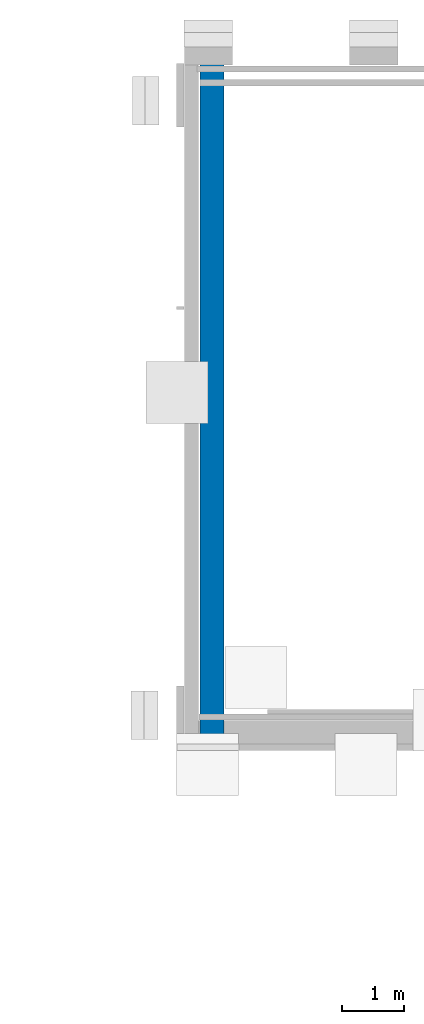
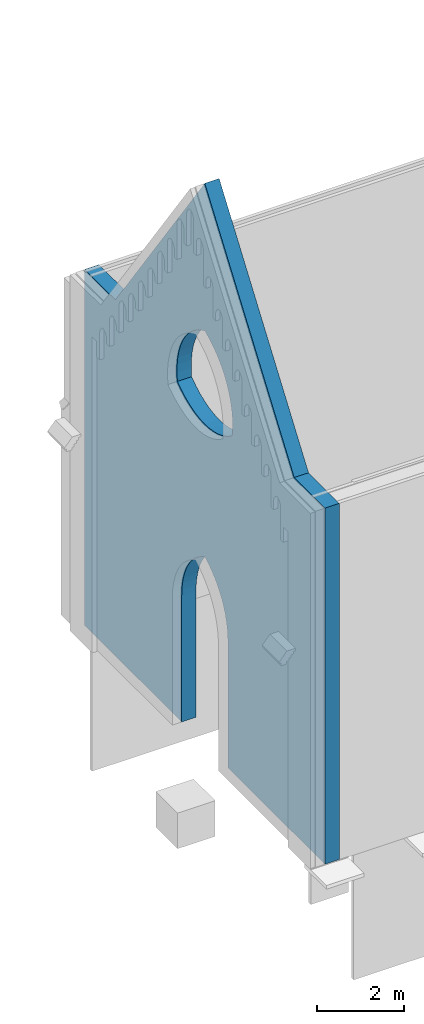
# Not in any storey, part 4 of 5: 1 wall.
"""IFC4 model written with IfcOpenShell, lengths in metres."""

from ifc_helpers import new_model, entity, si_unit, converted_unit, frame, origin_with_axes, origin_2d_with_axis, place, context, subcontext, project, polygons, element, save


model = new_model("IFC4")

# Units and contexts
model_context = context("Model", 3, precision=1e-05, world=origin_with_axes())
plan_context = context("Plan", 2, precision=1e-05, world=origin_2d_with_axis())
body_context = subcontext(model_context, "Body", "Model", "MODEL_VIEW")
ifc_project = project(units=[si_unit("LENGTHUNIT", "METRE"), converted_unit("PLANEANGLEUNIT", "degree", entity("IfcReal", 0.0174532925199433), si_unit("PLANEANGLEUNIT", "RADIAN"), dimensions=[0, 0, 0, 0, 0, 0, 0]), si_unit("AREAUNIT", "SQUARE_METRE"), si_unit("VOLUMEUNIT", "CUBIC_METRE")], contexts=[model_context, plan_context])

# Wall
wall_placement = place(None, frame((0.374967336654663, 0.0, 0.0), z_axis=(0.999999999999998, 4.37113882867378e-08, -4.37113882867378e-08), x_axis=(-4.37113882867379e-08, 0.999999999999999, 0.0)))
element("IfcWall", 1, at=wall_placement, Name="wall_north_core", PredefinedType="SOLIDWALL", context=body_context, shape_type="Tessellation", body=[
    polygons([(5.86372137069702, 15.2689647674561, 0.0), (5.52121591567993, 15.7489767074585, 0.0), (5.17872047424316, 15.2689685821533, 0.0), (4.8362250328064, 14.7889604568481, 0.0), (6.20622873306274, 14.7889556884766, 0.0), (4.49372911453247, 14.3089513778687, 0.0), (6.54873609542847, 14.3089475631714, 0.0), (4.1512336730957, 13.8289432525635, 0.0), (6.89124345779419, 13.8289394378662, 0.0), (3.80873799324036, 13.348934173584, 0.0), (5.52192878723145, 11.6085729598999, 0.0), (9.63130187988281, 9.98887157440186, 0.0), (9.28879451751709, 10.468879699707, 0.0), (6.78094244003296, 9.42789840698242, 0.0), (7.23375082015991, 13.3489303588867, 0.0), (5.7340145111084, 11.5074281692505, 0.0), (5.92956018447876, 11.3865308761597, 0.0), (7.57625770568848, 12.8689222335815, 0.0), (7.9187650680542, 12.3889141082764, 0.0), (6.10768270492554, 11.2474126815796, 0.0), (2.23126721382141, 4.99993553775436e-15, 0.0), (4.46253442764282, 2.05914044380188, 0.0), (2.6031448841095, 4.99993553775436e-15, 0.0), (1.41126894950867, 9.98887157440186, 0.0), (4.26291561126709, 9.42789936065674, 0.0), (0.0, 7.4916524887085, 0.0), (5.30984449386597, 11.5074291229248, 0.0), (5.11429882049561, 11.386531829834, 0.0), (6.26749801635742, 11.0916032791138, 0.0), (11.038857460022, 5.82684135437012, 0.0), (11.038857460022, 6.65924739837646, 0.0), (6.20518398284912, 4.69935846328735, 0.0), (8.94628715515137, 10.9488887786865, 0.0), (8.60377979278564, 11.4288969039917, 0.0), (6.70601797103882, 10.3320646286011, 0.0), (4.24446773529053, 9.66214275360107, 0.0), (4.25139474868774, 9.89193916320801, 0.0), (1.75376451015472, 10.4688835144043, 0.0), (1.05845153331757, 9.98887157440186, 0.0), (0.940845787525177, 9.98887157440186, 0.0), (0.0, 9.15646553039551, 0.0), (3.12374687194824, 12.3889179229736, 0.0), (4.93617677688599, 11.2474136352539, 0.0), (4.7763614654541, 11.0916042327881, 0.0), (3.46624255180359, 12.8689260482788, 0.0), (2.09626007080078, 10.9488925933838, 0.0), (5.07396793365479, 4.96102142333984, 0.0), (5.21100234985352, 5.07662200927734, 0.0), (4.65902519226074, 9.1859016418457, 0.0), (6.17529153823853, 9.10120105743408, 0.0), (5.96044921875, 9.0407018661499, 0.0), (5.52192878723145, 5.27420568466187, 0.0), (4.6357364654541, 10.9206352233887, 0.0), (0.0, 5.82683992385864, 0.0), (0.0, 4.99443387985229, 0.0), (4.65763664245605, 4.40128755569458, 0.0), (6.62826633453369, 10.5393342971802, 0.0), (2.7812511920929, 11.9089088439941, 0.0), (4.51518583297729, 10.7360343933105, 0.0), (8.26127243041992, 11.9089050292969, 0.0), (6.40812253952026, 10.9206342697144, 0.0), (6.52867317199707, 10.7360334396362, 0.0), (0.0, 6.65924644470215, 0.0), (4.45655250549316, 9.2947998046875, 0.0), (4.41559314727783, 10.5393352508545, 0.0), (8.81009006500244, 9.9998698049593e-16, 0.0), (11.038857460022, 1.66481196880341, 0.0), (11.038857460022, 2.49721789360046, 0.0), (2.43875575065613, 11.428900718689, 0.0), (4.33784103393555, 10.3320655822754, 0.0), (6.76104545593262, 10.1157550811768, 0.0), (6.79246425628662, 9.89193820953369, 0.0), (0.0, 4.16202735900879, 0.0), (0.0, 3.32962155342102, 0.0), (4.47059392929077, 3.71611428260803, 0.0), (1.29366314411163, 9.98887157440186, 0.0), (1.1760573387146, 9.98887157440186, 0.0), (0.0, 8.32405853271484, 0.0), (4.28281402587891, 10.1157560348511, 0.0), (4.46253442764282, 2.3533034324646, 0.0), (0.0, 2.49721550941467, 0.0), (11.038857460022, 9.15646553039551, 0.0), (11.038857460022, 9.98887157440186, 0.0), (10.9215612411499, 9.98887157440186, 0.0), (10.8042650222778, 9.98887157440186, 0.0), (10.6869688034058, 9.98887157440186, 0.0), (10.5696725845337, 9.98887157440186, 0.0), (10.4523763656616, 9.98887157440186, 0.0), (10.3350801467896, 9.98887157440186, 0.0), (10.2177839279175, 9.98887157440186, 0.0), (10.1004867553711, 9.98887157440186, 0.0), (9.98319053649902, 9.98887157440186, 0.0), (9.86589431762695, 9.98887157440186, 0.0), (11.038857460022, 8.32405853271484, 0.0), (9.74859809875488, 9.98887157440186, 0.0), (4.46253442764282, 1.76497757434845, 0.0), (2.97502279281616, 4.99993553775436e-15, 0.0), (0.823239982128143, 9.98887157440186, 0.0), (0.705634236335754, 9.98887157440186, 0.0), (0.588028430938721, 9.98887157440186, 0.0), (0.470422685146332, 9.98887157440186, 0.0), (0.352816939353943, 9.98887157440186, 0.0), (0.235211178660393, 9.98887157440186, 0.0), (0.117605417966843, 9.98887157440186, 0.0), (0.0, 9.98887157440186, 0.0), (6.58132362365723, 2.05913972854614, 0.0), (6.58132362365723, 1.76497673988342, 0.0), (8.43862819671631, 1.16665161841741e-15, 0.0), (11.038857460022, 7.49165296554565, 0.0), (6.58730554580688, 9.29479885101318, 0.0), (6.79939126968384, 9.66214179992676, 0.0), (6.0941276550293, 4.83505630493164, 0.0), (5.74207258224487, 9.00440216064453, 0.0), (6.38483285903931, 9.18590068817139, 0.0), (5.83285617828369, 5.07662153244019, 0.0), (11.038857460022, 4.16202974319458, 0.0), (6.54934024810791, 3.89695882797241, 0.0), (6.57326412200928, 3.71611452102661, 0.0), (5.6834077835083, 5.18122673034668, 0.0), (5.08340883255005, 9.04070281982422, 0.0), (4.86856603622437, 9.1012020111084, 0.0), (5.30178546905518, 9.00440406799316, 0.0), (5.52192878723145, 8.99230289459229, 0.0), (5.96989059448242, 4.96102094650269, 0.0), (5.36045074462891, 5.18122720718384, 0.0), (6.58132362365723, 1.47081387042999, 0.0), (8.06716728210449, 1.33331615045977e-15, 0.0), (3.71877837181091, 4.99993553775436e-15, 0.0), (4.46253442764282, 0.588325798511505, 0.0), (4.09065628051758, 4.99993553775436e-15, 0.0), (4.46253442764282, 1.17665159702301, 0.0), (4.46253442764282, 1.47081458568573, 0.0), (4.46253442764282, 2.94162940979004, 0.0), (4.46253442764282, 3.23579239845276, 0.0), (6.3026762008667, 4.55455875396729, 0.0), (6.58132362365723, 2.9416286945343, 0.0), (11.038857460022, 3.32962393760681, 0.0), (4.94973087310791, 4.8350567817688, 0.0), (4.83867454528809, 4.69935894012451, 0.0), (3.34690046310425, 4.99993553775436e-15, 0.0), (4.74118232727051, 4.55455875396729, 0.0), (11.038857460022, 4.99443578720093, 0.0), (6.45543575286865, 4.2401762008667, 0.0), (6.50993680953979, 4.07185649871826, 0.0), (4.58842182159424, 4.2401762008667, 0.0), (4.53392124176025, 4.07185649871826, 0.0), (4.49451732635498, 3.89695858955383, 0.0), (6.58132362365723, 3.52995443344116, 0.0), (4.46253442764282, 3.52995419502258, 0.0), (6.58132362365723, 3.23579168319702, 0.0), (4.46253442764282, 2.64746642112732, 0.0), (6.58132362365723, 2.64746570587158, 0.0), (6.58132362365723, 2.35330271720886, 0.0), (0.0, 1.66480934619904, 0.0), (1.85938942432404, 4.99993553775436e-15, 0.0), (1.48751151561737, 4.99993553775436e-15, 0.0), (6.38622140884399, 4.40128755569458, 0.0), (0.0, 0.832403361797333, 0.0), (1.11563360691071, 4.99993553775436e-15, 0.0), (0.743755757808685, 4.99993553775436e-15, 0.0), (4.46253442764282, 0.88248872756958, 0.0), (6.58132362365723, 1.17665088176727, 0.0), (9.92447280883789, 4.99993331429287e-16, 0.0), (11.038857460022, 0.832405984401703, 0.0), (0.0, 4.99993553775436e-15, 0.0), (0.371877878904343, 4.99993553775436e-15, 0.0), (10.2959337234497, 3.33328825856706e-16, 0.0), (10.6673946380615, 1.66664280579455e-16, 0.0), (7.32424545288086, 1.66664521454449e-15, 0.0), (6.58132362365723, 0.588325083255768, 0.0), (6.95278453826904, 1.83330985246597e-15, 0.0), (6.58132362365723, 0.294162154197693, 0.0), (6.58132362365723, 1.9999741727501e-15, 0.0), (7.69570636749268, 1.49998068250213e-15, 0.0), (6.58132362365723, 0.882487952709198, 0.0), (4.46253442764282, 0.294162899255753, 0.0), (4.46253442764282, 4.99993553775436e-15, 0.0), (9.18155097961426, 8.33322448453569e-16, 0.0), (9.55301189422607, 6.66657916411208e-16, 0.0), (11.038857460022, 0.0, 0.0), (5.86372137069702, 15.2689647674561, 0.379999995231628), (5.17872047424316, 15.2689685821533, 0.379999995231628), (5.52121591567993, 15.7489767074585, 0.379999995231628), (4.8362250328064, 14.7889604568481, 0.379999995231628), (6.20622873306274, 14.7889556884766, 0.379999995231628), (4.49372911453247, 14.3089513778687, 0.379999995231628), (6.54873609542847, 14.3089475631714, 0.379999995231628), (4.1512336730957, 13.8289432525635, 0.379999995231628), (6.89124345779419, 13.8289394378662, 0.379999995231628), (3.80873799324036, 13.348934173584, 0.379999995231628), (5.52192878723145, 11.6085729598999, 0.379999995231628), (9.63130187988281, 9.98887157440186, 0.379999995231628), (6.78094244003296, 9.42789840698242, 0.379999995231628), (9.28879451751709, 10.468879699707, 0.379999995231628), (7.23375082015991, 13.3489303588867, 0.379999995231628), (5.92956018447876, 11.3865308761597, 0.379999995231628), (5.7340145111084, 11.5074281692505, 0.379999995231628), (7.57625770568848, 12.8689222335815, 0.379999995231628), (7.9187650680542, 12.3889141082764, 0.379999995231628), (6.10768270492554, 11.2474126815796, 0.379999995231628), (2.6031448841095, 4.99993553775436e-15, 0.379999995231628), (4.46253442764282, 2.05914044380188, 0.379999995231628), (2.23126721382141, 4.99993553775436e-15, 0.379999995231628), (0.0, 7.4916524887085, 0.379999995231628), (4.26291561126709, 9.42789936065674, 0.379999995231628), (1.41126894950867, 9.98887157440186, 0.379999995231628), (5.11429882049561, 11.386531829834, 0.379999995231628), (5.30984449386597, 11.5074291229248, 0.379999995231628), (6.26749801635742, 11.0916032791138, 0.379999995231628), (11.038857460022, 5.82684135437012, 0.379999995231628), (6.20518398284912, 4.69935846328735, 0.379999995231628), (11.038857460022, 6.65924739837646, 0.379999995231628), (8.94628715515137, 10.9488887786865, 0.379999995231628), (6.70601797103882, 10.3320646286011, 0.379999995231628), (8.60377979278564, 11.4288969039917, 0.379999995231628), (1.75376451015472, 10.4688835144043, 0.379999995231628), (4.24446773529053, 9.66214275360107, 0.379999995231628), (4.25139474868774, 9.89193916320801, 0.379999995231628), (1.05845153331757, 9.98887157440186, 0.379999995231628), (0.0, 9.15646553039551, 0.379999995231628), (0.940845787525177, 9.98887157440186, 0.379999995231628), (4.7763614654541, 11.0916042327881, 0.379999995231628), (4.93617677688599, 11.2474136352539, 0.379999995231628), (3.12374687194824, 12.3889179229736, 0.379999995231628), (3.46624255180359, 12.8689260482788, 0.379999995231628), (2.09626007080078, 10.9488925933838, 0.379999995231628), (5.07396793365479, 4.96102142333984, 0.379999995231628), (4.65902519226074, 9.1859016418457, 0.379999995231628), (5.21100234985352, 5.07662200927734, 0.379999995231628), (5.52192878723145, 5.27420568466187, 0.379999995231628), (6.17529153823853, 9.10120105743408, 0.379999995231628), (5.96044921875, 9.0407018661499, 0.379999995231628), (4.6357364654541, 10.9206352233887, 0.379999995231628), (0.0, 5.82683992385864, 0.379999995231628), (4.65763664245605, 4.40128755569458, 0.379999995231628), (0.0, 4.99443387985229, 0.379999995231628), (6.62826633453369, 10.5393342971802, 0.379999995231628), (4.51518583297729, 10.7360343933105, 0.379999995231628), (2.7812511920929, 11.9089088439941, 0.379999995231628), (8.26127243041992, 11.9089050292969, 0.379999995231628), (6.52867317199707, 10.7360334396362, 0.379999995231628), (6.40812253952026, 10.9206342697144, 0.379999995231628), (0.0, 6.65924644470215, 0.379999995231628), (4.45655250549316, 9.2947998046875, 0.379999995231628), (4.41559314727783, 10.5393352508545, 0.379999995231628), (8.81009006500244, 9.9998698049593e-16, 0.379999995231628), (11.038857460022, 2.49721789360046, 0.379999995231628), (11.038857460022, 1.66481196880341, 0.379999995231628), (4.33784103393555, 10.3320655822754, 0.379999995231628), (2.43875575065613, 11.428900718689, 0.379999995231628), (6.79246425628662, 9.89193820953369, 0.379999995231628), (6.76104545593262, 10.1157550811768, 0.379999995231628), (0.0, 4.16202735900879, 0.379999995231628), (4.47059392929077, 3.71611428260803, 0.379999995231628), (0.0, 3.32962155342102, 0.379999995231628), (1.29366314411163, 9.98887157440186, 0.379999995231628), (0.0, 8.32405853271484, 0.379999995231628), (1.1760573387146, 9.98887157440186, 0.379999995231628), (4.28281402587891, 10.1157560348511, 0.379999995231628), (0.0, 2.49721550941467, 0.379999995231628), (4.46253442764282, 2.3533034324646, 0.379999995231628), (11.038857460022, 9.15646553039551, 0.379999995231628), (10.9215612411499, 9.98887157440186, 0.379999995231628), (11.038857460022, 9.98887157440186, 0.379999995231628), (10.8042650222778, 9.98887157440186, 0.379999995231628), (10.6869688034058, 9.98887157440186, 0.379999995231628), (10.5696725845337, 9.98887157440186, 0.379999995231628), (10.4523763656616, 9.98887157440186, 0.379999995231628), (10.3350801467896, 9.98887157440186, 0.379999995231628), (10.2177839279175, 9.98887157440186, 0.379999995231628), (10.1004867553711, 9.98887157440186, 0.379999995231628), (9.98319053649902, 9.98887157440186, 0.379999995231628), (9.86589431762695, 9.98887157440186, 0.379999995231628), (9.74859809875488, 9.98887157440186, 0.379999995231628), (11.038857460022, 8.32405853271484, 0.379999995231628), (2.97502279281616, 4.99993553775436e-15, 0.379999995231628), (4.46253442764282, 1.76497757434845, 0.379999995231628), (0.823239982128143, 9.98887157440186, 0.379999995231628), (0.705634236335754, 9.98887157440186, 0.379999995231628), (0.588028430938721, 9.98887157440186, 0.379999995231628), (0.470422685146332, 9.98887157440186, 0.379999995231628), (0.352816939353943, 9.98887157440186, 0.379999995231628), (0.235211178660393, 9.98887157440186, 0.379999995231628), (0.117605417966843, 9.98887157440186, 0.379999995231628), (0.0, 9.98887157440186, 0.379999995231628), (8.43862819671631, 1.16665161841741e-15, 0.379999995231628), (6.58132362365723, 2.05913972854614, 0.379999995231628), (6.58132362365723, 1.76497673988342, 0.379999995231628), (11.038857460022, 7.49165296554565, 0.379999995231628), (6.58730554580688, 9.29479885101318, 0.379999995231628), (6.79939126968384, 9.66214179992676, 0.379999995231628), (6.0941276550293, 4.83505630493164, 0.379999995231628), (5.74207258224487, 9.00440216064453, 0.379999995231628), (5.83285617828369, 5.07662153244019, 0.379999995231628), (6.38483285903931, 9.18590068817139, 0.379999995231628), (11.038857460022, 4.16202974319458, 0.379999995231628), (6.57326412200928, 3.71611452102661, 0.379999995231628), (6.54934024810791, 3.89695882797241, 0.379999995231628), (5.6834077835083, 5.18122673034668, 0.379999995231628), (5.08340883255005, 9.04070281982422, 0.379999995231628), (4.86856603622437, 9.1012020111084, 0.379999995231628), (5.30178546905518, 9.00440406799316, 0.379999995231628), (5.52192878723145, 8.99230289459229, 0.379999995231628), (5.96989059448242, 4.96102094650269, 0.379999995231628), (5.36045074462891, 5.18122720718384, 0.379999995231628), (8.06716728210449, 1.33331615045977e-15, 0.379999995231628), (6.58132362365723, 1.47081387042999, 0.379999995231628), (4.09065628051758, 4.99993553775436e-15, 0.379999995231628), (4.46253442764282, 0.588325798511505, 0.379999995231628), (3.71877837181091, 4.99993553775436e-15, 0.379999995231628), (4.46253442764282, 1.17665159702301, 0.379999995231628), (4.46253442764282, 1.47081458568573, 0.379999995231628), (4.46253442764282, 2.94162940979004, 0.379999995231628), (4.46253442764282, 3.23579239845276, 0.379999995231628), (6.3026762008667, 4.55455875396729, 0.379999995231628), (11.038857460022, 3.32962393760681, 0.379999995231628), (6.58132362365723, 2.9416286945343, 0.379999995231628), (4.83867454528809, 4.69935894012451, 0.379999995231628), (4.94973087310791, 4.8350567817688, 0.379999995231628), (3.34690046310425, 4.99993553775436e-15, 0.379999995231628), (4.74118232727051, 4.55455875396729, 0.379999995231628), (11.038857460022, 4.99443578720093, 0.379999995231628), (6.50993680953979, 4.07185649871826, 0.379999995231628), (6.45543575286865, 4.2401762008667, 0.379999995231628), (4.58842182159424, 4.2401762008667, 0.379999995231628), (4.53392124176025, 4.07185649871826, 0.379999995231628), (4.49451732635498, 3.89695858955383, 0.379999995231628), (6.58132362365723, 3.52995443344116, 0.379999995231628), (4.46253442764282, 3.52995419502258, 0.379999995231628), (6.58132362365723, 3.23579168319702, 0.379999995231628), (4.46253442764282, 2.64746642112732, 0.379999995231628), (6.58132362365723, 2.64746570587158, 0.379999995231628), (6.58132362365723, 2.35330271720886, 0.379999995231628), (0.0, 1.66480934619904, 0.379999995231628), (1.85938942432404, 4.99993553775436e-15, 0.379999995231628), (1.48751151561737, 4.99993553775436e-15, 0.379999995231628), (6.38622140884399, 4.40128755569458, 0.379999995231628), (0.0, 0.832403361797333, 0.379999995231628), (1.11563360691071, 4.99993553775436e-15, 0.379999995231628), (0.743755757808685, 4.99993553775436e-15, 0.379999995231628), (4.46253442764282, 0.88248872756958, 0.379999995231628), (6.58132362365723, 1.17665088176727, 0.379999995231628), (9.92447280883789, 4.99993331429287e-16, 0.379999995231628), (11.038857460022, 0.832405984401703, 0.379999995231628), (0.0, 4.99993553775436e-15, 0.379999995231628), (0.371877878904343, 4.99993553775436e-15, 0.379999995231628), (10.2959337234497, 3.33328825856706e-16, 0.379999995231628), (10.6673946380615, 1.66664280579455e-16, 0.379999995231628), (6.95278453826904, 1.83330985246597e-15, 0.379999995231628), (7.32424545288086, 1.66664521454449e-15, 0.379999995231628), (6.58132362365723, 0.588325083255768, 0.379999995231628), (6.58132362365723, 1.9999741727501e-15, 0.379999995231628), (6.58132362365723, 0.294162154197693, 0.379999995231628), (7.69570636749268, 1.49998068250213e-15, 0.379999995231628), (6.58132362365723, 0.882487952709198, 0.379999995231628), (4.46253442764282, 0.294162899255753, 0.379999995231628), (4.46253442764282, 4.99993553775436e-15, 0.379999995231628), (9.18155097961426, 8.33322448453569e-16, 0.379999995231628), (9.55301189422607, 6.66657916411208e-16, 0.379999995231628), (11.038857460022, 0.0, 0.379999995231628)], [[[2, 1, 3]], [[3, 1, 4]], [[4, 1, 5]], [[4, 5, 6]], [[6, 5, 7]], [[6, 7, 8]], [[8, 7, 9]], [[8, 11, 10]], [[14, 13, 12]], [[15, 17, 16]], [[9, 15, 11]], [[15, 18, 17]], [[15, 16, 11]], [[18, 19, 20]], [[21, 22, 23]], [[24, 25, 26]], [[10, 27, 28]], [[20, 19, 29]], [[32, 31, 30]], [[35, 34, 33]], [[38, 37, 36]], [[38, 36, 25]], [[41, 40, 39]], [[42, 43, 44]], [[45, 28, 43]], [[46, 37, 38]], [[49, 48, 47]], [[51, 50, 52]], [[42, 44, 53]], [[54, 56, 55]], [[57, 34, 35]], [[58, 53, 59]], [[61, 60, 62]], [[63, 25, 64]], [[58, 59, 65]], [[68, 67, 66]], [[69, 65, 70]], [[71, 33, 72]], [[73, 75, 74]], [[77, 76, 78]], [[61, 19, 60]], [[46, 70, 79]], [[46, 79, 37]], [[81, 80, 21]], [[84, 83, 82]], [[85, 84, 82]], [[86, 85, 82]], [[87, 86, 82]], [[88, 87, 82]], [[89, 88, 82]], [[90, 89, 82]], [[91, 90, 82]], [[92, 91, 82]], [[93, 92, 82]], [[95, 93, 94]], [[12, 95, 94]], [[23, 96, 97]], [[76, 24, 78]], [[24, 26, 78]], [[41, 77, 78]], [[98, 40, 41]], [[99, 98, 41]], [[100, 99, 41]], [[101, 100, 41]], [[102, 101, 41]], [[103, 102, 41]], [[104, 103, 41]], [[105, 104, 41]], [[38, 25, 24]], [[42, 53, 58]], [[106, 108, 107]], [[41, 39, 77]], [[14, 12, 109]], [[64, 49, 47]], [[110, 14, 31]], [[111, 13, 14]], [[112, 31, 32]], [[113, 51, 52]], [[50, 114, 115]], [[12, 94, 109]], [[117, 116, 118]], [[50, 115, 119]], [[50, 119, 52]], [[72, 33, 13]], [[17, 18, 20]], [[121, 120, 52]], [[57, 60, 34]], [[45, 43, 42]], [[120, 122, 52]], [[122, 123, 52]], [[8, 9, 11]], [[49, 121, 48]], [[114, 110, 124]], [[121, 125, 48]], [[107, 127, 126]], [[123, 113, 52]], [[128, 129, 130]], [[114, 124, 115]], [[97, 132, 131]], [[72, 13, 111]], [[69, 70, 46]], [[96, 132, 97]], [[74, 134, 133]], [[32, 30, 135]], [[14, 109, 31]], [[62, 60, 57]], [[136, 137, 68]], [[63, 138, 139]], [[97, 131, 140]], [[54, 139, 141]], [[26, 25, 63]], [[143, 142, 144]], [[54, 141, 56]], [[58, 65, 69]], [[55, 56, 145]], [[144, 142, 116]], [[55, 145, 146]], [[144, 116, 117]], [[80, 22, 21]], [[73, 146, 147]], [[22, 96, 23]], [[118, 116, 137]], [[73, 147, 75]], [[118, 137, 148]], [[74, 75, 149]], [[148, 137, 150]], [[74, 149, 134]], [[150, 137, 136]], [[74, 133, 81]], [[55, 146, 73]], [[110, 31, 112]], [[81, 133, 151]], [[136, 68, 152]], [[81, 151, 80]], [[152, 68, 153]], [[153, 68, 66]], [[81, 21, 154]], [[64, 47, 138]], [[153, 66, 106]], [[154, 21, 155]], [[93, 82, 94]], [[154, 155, 156]], [[157, 30, 142]], [[35, 33, 71]], [[154, 159, 158]], [[10, 11, 27]], [[110, 112, 124]], [[158, 159, 160]], [[140, 161, 128]], [[126, 127, 162]], [[157, 142, 143]], [[67, 164, 163]], [[158, 166, 165]], [[154, 156, 159]], [[164, 168, 167]], [[158, 160, 166]], [[170, 169, 171]], [[172, 171, 173]], [[175, 174, 169]], [[129, 176, 130]], [[170, 171, 172]], [[135, 30, 157]], [[161, 129, 128]], [[175, 169, 170]], [[10, 28, 45]], [[131, 161, 140]], [[162, 174, 175]], [[63, 64, 138]], [[29, 19, 61]], [[130, 176, 177]], [[107, 108, 127]], [[106, 66, 108]], [[66, 67, 178]], [[178, 67, 179]], [[67, 163, 179]], [[63, 139, 54]], [[163, 164, 167]], [[121, 52, 125]], [[164, 180, 168]], [[162, 127, 174]], [[183, 182, 181]], [[182, 184, 181]], [[184, 185, 181]], [[184, 186, 185]], [[186, 187, 185]], [[186, 188, 187]], [[188, 189, 187]], [[188, 190, 191]], [[193, 192, 194]], [[195, 197, 196]], [[189, 191, 195]], [[195, 196, 198]], [[195, 191, 197]], [[198, 200, 199]], [[202, 203, 201]], [[205, 206, 204]], [[190, 207, 208]], [[200, 209, 199]], [[212, 211, 210]], [[214, 213, 215]], [[218, 216, 217]], [[216, 205, 217]], [[219, 221, 220]], [[224, 222, 223]], [[207, 225, 223]], [[218, 226, 216]], [[228, 227, 229]], [[231, 232, 230]], [[224, 233, 222]], [[234, 236, 235]], [[215, 237, 214]], [[239, 238, 233]], [[240, 242, 241]], [[243, 244, 205]], [[239, 245, 238]], [[247, 246, 248]], [[250, 249, 245]], [[252, 251, 213]], [[253, 255, 254]], [[256, 258, 257]], [[199, 242, 240]], [[249, 226, 259]], [[226, 218, 259]], [[261, 260, 203]], [[264, 263, 262]], [[263, 265, 262]], [[265, 266, 262]], [[266, 267, 262]], [[267, 268, 262]], [[268, 269, 262]], [[269, 270, 262]], [[270, 271, 262]], [[272, 262, 271]], [[273, 262, 272]], [[273, 274, 275]], [[274, 192, 275]], [[277, 201, 276]], [[206, 256, 257]], [[206, 257, 204]], [[258, 220, 257]], [[221, 278, 220]], [[278, 279, 220]], [[279, 280, 220]], [[280, 281, 220]], [[281, 282, 220]], [[282, 283, 220]], [[283, 284, 220]], [[284, 285, 220]], [[216, 206, 205]], [[224, 239, 233]], [[287, 288, 286]], [[258, 219, 220]], [[193, 289, 192]], [[228, 244, 227]], [[290, 212, 193]], [[194, 291, 193]], [[212, 292, 211]], [[232, 293, 230]], [[295, 231, 294]], [[192, 289, 275]], [[298, 297, 296]], [[231, 299, 294]], [[231, 230, 299]], [[213, 251, 194]], [[198, 196, 200]], [[300, 301, 230]], [[240, 237, 215]], [[225, 224, 223]], [[302, 300, 230]], [[303, 302, 230]], [[189, 188, 191]], [[301, 228, 229]], [[290, 295, 304]], [[301, 229, 305]], [[288, 307, 306]], [[293, 303, 230]], [[310, 308, 309]], [[295, 294, 304]], [[276, 311, 312]], [[194, 251, 291]], [[249, 250, 226]], [[277, 276, 312]], [[255, 313, 314]], [[210, 211, 315]], [[289, 193, 212]], [[241, 237, 240]], [[317, 247, 316]], [[243, 318, 319]], [[276, 320, 311]], [[234, 321, 318]], [[204, 243, 205]], [[324, 323, 322]], [[234, 235, 321]], [[245, 239, 250]], [[235, 236, 325]], [[323, 296, 322]], [[325, 236, 326]], [[323, 298, 296]], [[261, 203, 202]], [[253, 327, 326]], [[202, 201, 277]], [[297, 316, 296]], [[253, 254, 327]], [[297, 328, 316]], [[254, 255, 329]], [[316, 328, 330]], [[255, 314, 329]], [[330, 317, 316]], [[255, 260, 313]], [[326, 236, 253]], [[290, 292, 212]], [[260, 331, 313]], [[247, 317, 332]], [[260, 261, 331]], [[332, 333, 247]], [[247, 333, 246]], [[260, 334, 203]], [[244, 319, 227]], [[333, 287, 246]], [[334, 335, 203]], [[262, 273, 275]], [[334, 336, 335]], [[337, 322, 210]], [[213, 214, 252]], [[334, 338, 339]], [[190, 208, 191]], [[290, 304, 292]], [[338, 340, 339]], [[320, 310, 341]], [[307, 342, 306]], [[337, 324, 322]], [[248, 343, 344]], [[338, 345, 346]], [[334, 339, 336]], [[344, 347, 348]], [[338, 346, 340]], [[350, 351, 349]], [[349, 353, 352]], [[355, 350, 354]], [[309, 308, 356]], [[351, 353, 349]], [[210, 315, 337]], [[341, 310, 309]], [[355, 351, 350]], [[190, 225, 207]], [[311, 320, 341]], [[342, 355, 354]], [[244, 243, 319]], [[209, 242, 199]], [[356, 308, 357]], [[286, 288, 306]], [[246, 287, 286]], [[246, 358, 248]], [[358, 359, 248]], [[248, 359, 343]], [[243, 234, 318]], [[343, 347, 344]], [[301, 305, 230]], [[344, 348, 360]], [[306, 342, 354]], [[311, 131, 132]], [[311, 132, 312]], [[184, 182, 3]], [[184, 3, 4]], [[44, 43, 223]], [[44, 223, 222]], [[312, 132, 96]], [[312, 96, 277]], [[186, 184, 4]], [[186, 4, 6]], [[43, 28, 207]], [[43, 207, 223]], [[202, 277, 96]], [[202, 96, 22]], [[188, 186, 6]], [[188, 6, 8]], [[28, 27, 208]], [[28, 208, 207]], [[173, 171, 349]], [[173, 349, 352]], [[202, 22, 80]], [[202, 80, 261]], [[190, 188, 8]], [[190, 8, 10]], [[27, 11, 191]], [[27, 191, 208]], [[171, 169, 350]], [[171, 350, 349]], [[261, 80, 151]], [[261, 151, 331]], [[225, 190, 10]], [[225, 10, 45]], [[11, 16, 197]], [[11, 197, 191]], [[169, 174, 354]], [[169, 354, 350]], [[331, 151, 133]], [[331, 133, 313]], [[224, 225, 45]], [[224, 45, 42]], [[16, 17, 197]], [[174, 127, 306]], [[174, 306, 354]], [[313, 133, 134]], [[313, 134, 314]], [[239, 224, 42]], [[239, 42, 58]], [[17, 20, 196]], [[127, 108, 286]], [[127, 286, 306]], [[314, 134, 149]], [[314, 149, 329]], [[250, 239, 58]], [[250, 58, 69]], [[20, 29, 200]], [[108, 66, 246]], [[108, 246, 286]], [[254, 329, 149]], [[254, 149, 75]], [[226, 250, 69]], [[226, 69, 46]], [[242, 209, 29]], [[242, 29, 61]], [[66, 178, 358]], [[66, 358, 246]], [[327, 254, 75]], [[327, 75, 147]], [[216, 226, 46]], [[216, 46, 38]], [[241, 242, 61]], [[241, 61, 62]], [[178, 179, 359]], [[178, 359, 358]], [[326, 327, 147]], [[326, 147, 146]], [[206, 216, 38]], [[206, 38, 24]], [[237, 241, 62]], [[237, 62, 57]], [[179, 163, 343]], [[179, 343, 359]], [[325, 326, 146]], [[325, 146, 145]], [[24, 76, 256]], [[24, 256, 206]], [[237, 57, 35]], [[163, 167, 347]], [[163, 347, 343]], [[235, 325, 145]], [[235, 145, 56]], [[256, 76, 77]], [[256, 77, 258]], [[252, 214, 35]], [[252, 35, 71]], [[167, 168, 348]], [[167, 348, 347]], [[321, 235, 56]], [[321, 56, 141]], [[258, 77, 39]], [[258, 39, 219]], [[251, 252, 71]], [[251, 71, 72]], [[168, 180, 360]], [[168, 360, 348]], [[318, 321, 141]], [[318, 141, 139]], [[219, 39, 40]], [[219, 40, 221]], [[291, 251, 72]], [[291, 72, 111]], [[360, 180, 164]], [[360, 164, 344]], [[319, 318, 139]], [[319, 139, 138]], [[40, 98, 278]], [[40, 278, 221]], [[193, 291, 111]], [[193, 111, 14]], [[344, 164, 67]], [[344, 67, 248]], [[227, 319, 138]], [[227, 138, 47]], [[278, 98, 99]], [[278, 99, 279]], [[14, 110, 290]], [[14, 290, 193]], [[248, 67, 68]], [[248, 68, 247]], [[47, 48, 229]], [[47, 229, 227]], [[279, 99, 100]], [[279, 100, 280]], [[110, 114, 295]], [[110, 295, 290]], [[247, 68, 137]], [[247, 137, 316]], [[48, 125, 305]], [[48, 305, 229]], [[280, 100, 101]], [[280, 101, 281]], [[114, 50, 231]], [[114, 231, 295]], [[316, 137, 116]], [[316, 116, 296]], [[125, 52, 230]], [[125, 230, 305]], [[281, 101, 102]], [[281, 102, 282]], [[50, 51, 232]], [[50, 232, 231]], [[296, 116, 142]], [[296, 142, 322]], [[52, 119, 299]], [[52, 299, 230]], [[102, 103, 283]], [[102, 283, 282]], [[51, 113, 293]], [[51, 293, 232]], [[210, 322, 142]], [[210, 142, 30]], [[119, 115, 294]], [[119, 294, 299]], [[103, 104, 284]], [[103, 284, 283]], [[113, 123, 303]], [[113, 303, 293]], [[210, 30, 31]], [[210, 31, 212]], [[115, 124, 304]], [[115, 304, 294]], [[104, 105, 285]], [[104, 285, 284]], [[123, 122, 303]], [[289, 212, 31]], [[289, 31, 109]], [[292, 304, 124]], [[292, 124, 112]], [[41, 285, 105]], [[41, 220, 285]], [[122, 120, 300]], [[122, 300, 302]], [[289, 109, 94]], [[289, 94, 275]], [[211, 292, 112]], [[211, 112, 32]], [[78, 220, 41]], [[78, 257, 220]], [[120, 121, 300]], [[275, 94, 82]], [[275, 82, 262]], [[315, 211, 32]], [[315, 32, 135]], [[26, 257, 78]], [[26, 204, 257]], [[121, 49, 228]], [[121, 228, 301]], [[262, 82, 83]], [[262, 83, 264]], [[337, 315, 135]], [[337, 135, 157]], [[63, 204, 26]], [[63, 243, 204]], [[49, 64, 244]], [[49, 244, 228]], [[264, 83, 84]], [[264, 84, 263]], [[324, 337, 157]], [[324, 157, 143]], [[54, 243, 63]], [[54, 234, 243]], [[64, 25, 244]], [[263, 84, 85]], [[263, 85, 265]], [[323, 324, 143]], [[323, 143, 144]], [[55, 234, 54]], [[55, 236, 234]], [[265, 85, 86]], [[265, 86, 266]], [[298, 323, 144]], [[298, 144, 117]], [[73, 236, 55]], [[73, 253, 236]], [[266, 86, 87]], [[266, 87, 267]], [[297, 298, 117]], [[297, 117, 118]], [[74, 253, 73]], [[74, 255, 253]], [[267, 87, 88]], [[267, 88, 268]], [[328, 297, 118]], [[328, 118, 148]], [[81, 255, 74]], [[81, 260, 255]], [[268, 88, 89]], [[268, 89, 269]], [[150, 328, 148]], [[150, 330, 328]], [[154, 260, 81]], [[154, 334, 260]], [[269, 89, 90]], [[269, 90, 270]], [[136, 330, 150]], [[136, 317, 330]], [[158, 334, 154]], [[158, 338, 334]], [[90, 91, 271]], [[90, 271, 270]], [[152, 317, 136]], [[152, 332, 317]], [[165, 338, 158]], [[165, 345, 338]], [[271, 91, 92]], [[271, 92, 272]], [[153, 332, 152]], [[153, 333, 332]], [[166, 345, 165]], [[166, 346, 345]], [[272, 92, 93]], [[272, 93, 273]], [[106, 333, 153]], [[106, 287, 333]], [[160, 346, 166]], [[160, 340, 346]], [[273, 93, 95]], [[273, 95, 274]], [[107, 287, 106]], [[107, 288, 287]], [[159, 340, 160]], [[159, 339, 340]], [[274, 95, 12]], [[274, 12, 192]], [[307, 288, 107]], [[307, 107, 126]], [[156, 339, 159]], [[156, 336, 339]], [[194, 192, 12]], [[194, 12, 13]], [[162, 307, 126]], [[162, 342, 307]], [[155, 336, 156]], [[155, 335, 336]], [[33, 194, 13]], [[355, 342, 162]], [[355, 162, 175]], [[21, 335, 155]], [[21, 203, 335]], [[215, 213, 33]], [[215, 33, 34]], [[351, 355, 175]], [[351, 175, 170]], [[23, 203, 21]], [[23, 201, 203]], [[240, 215, 34]], [[240, 34, 60]], [[353, 351, 170]], [[353, 170, 172]], [[97, 201, 23]], [[97, 276, 201]], [[199, 240, 60]], [[199, 60, 19]], [[173, 353, 172]], [[173, 352, 353]], [[140, 276, 97]], [[140, 320, 276]], [[198, 199, 19]], [[198, 19, 18]], [[217, 205, 25]], [[217, 25, 36]], [[140, 128, 310]], [[140, 310, 320]], [[195, 198, 18]], [[195, 18, 15]], [[218, 217, 36]], [[218, 36, 37]], [[128, 130, 308]], [[128, 308, 310]], [[9, 195, 15]], [[259, 218, 37]], [[259, 37, 79]], [[177, 308, 130]], [[177, 357, 308]], [[7, 189, 9]], [[249, 259, 79]], [[249, 79, 70]], [[357, 177, 176]], [[357, 176, 356]], [[185, 187, 7]], [[185, 7, 5]], [[245, 249, 70]], [[245, 70, 65]], [[309, 356, 176]], [[309, 176, 129]], [[181, 185, 5]], [[181, 5, 1]], [[238, 245, 65]], [[238, 65, 59]], [[341, 309, 129]], [[341, 129, 161]], [[183, 181, 1]], [[183, 1, 2]], [[233, 238, 59]], [[233, 59, 53]], [[311, 341, 161]], [[311, 161, 131]], [[182, 183, 2]], [[182, 2, 3]], [[222, 233, 53]], [[222, 53, 44]], [[197, 17, 196]], [[196, 20, 200]], [[29, 209, 200]], [[214, 237, 35]], [[122, 302, 303]], [[121, 301, 300]], [[244, 25, 205]], [[213, 194, 33]], [[189, 195, 9]], [[187, 189, 7]]], closed=True),
])

save(model, "model.ifc")
